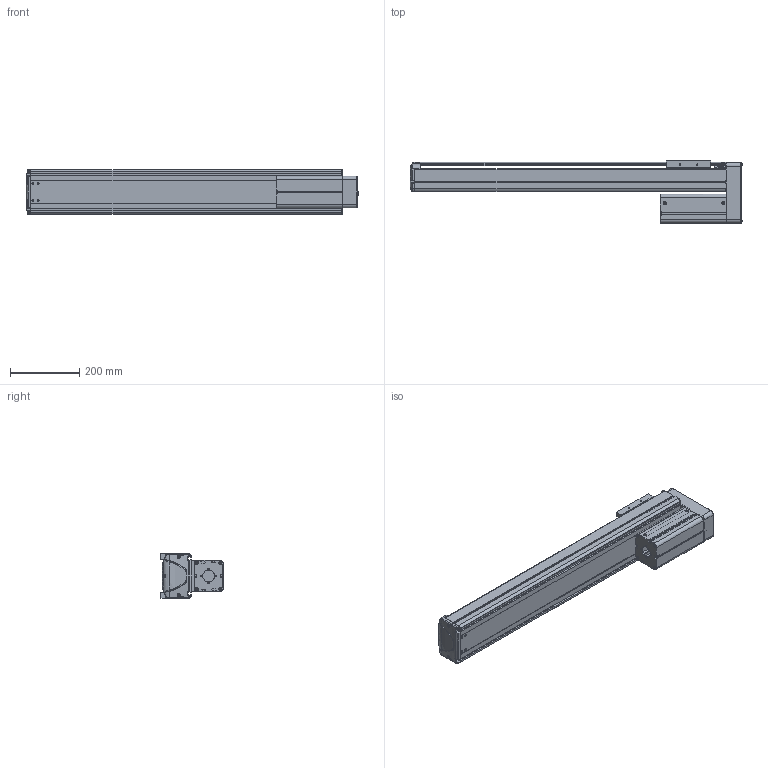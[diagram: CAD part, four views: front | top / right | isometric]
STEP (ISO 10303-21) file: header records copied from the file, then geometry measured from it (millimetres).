
FILE_DESCRIPTION((''),'2;1');
FILE_NAME('BE30E-UU-M_B-70_IGS_PRT','2017-06-17T',(' '),(''),'PRO/ENGINEER BY PARAMETRIC TECHNOLOGY CORPORATION, 2015030','PRO/ENGINEER BY PARAMETRIC TECHNOLOGY CORPORATION, 2015030','');
FILE_SCHEMA(('CONFIG_CONTROL_DESIGN'));
Length unit declared in the file: millimetre
Products named in the file (1): BE30E-UU-M_B-70_IGS_PRT
Bounding box: 961.9 x 180 x 130 mm (x, y, z)
Volume: 3262071.9 mm3; surface area: 1436755.1 mm2
Topology: 2 solids, 119 shells, 2019 faces, 5441 edges, 3532 vertices
Faces by surface type: plane 987, cylinder 835, cone 107, torus 38, bspline 28, sphere 24
Entity records: 65346 total; most frequent: CARTESIAN_POINT 13807, DIRECTION 10892, ORIENTED_EDGE 10357, EDGE_CURVE 5403, AXIS2_PLACEMENT_3D 3832, VERTEX_POINT 3532, VECTOR 3228, LINE 3228
